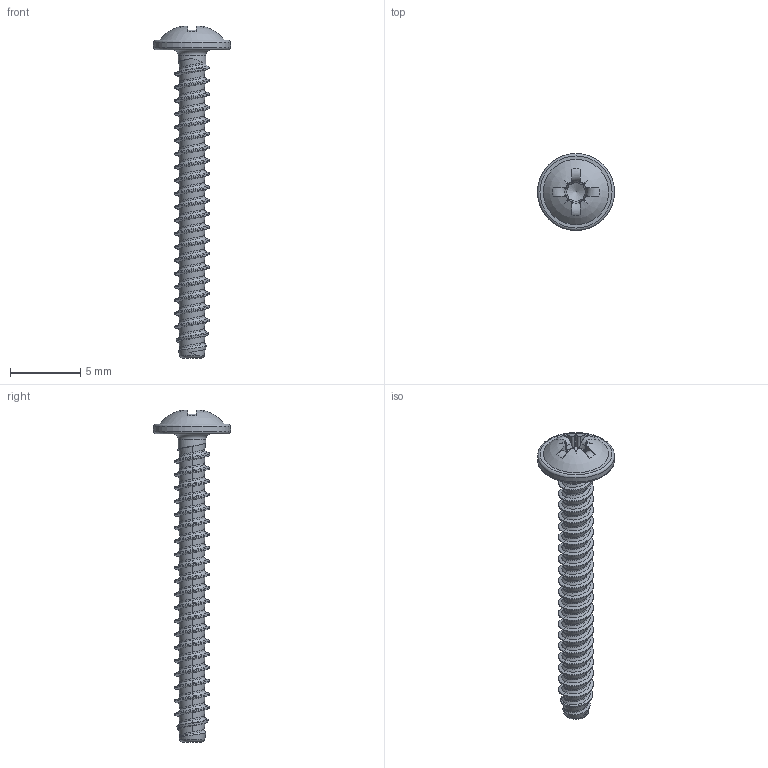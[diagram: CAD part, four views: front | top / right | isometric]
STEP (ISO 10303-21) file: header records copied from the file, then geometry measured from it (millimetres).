
FILE_DESCRIPTION(/* description */ (''),/* implementation_level */ '2;1');
FILE_NAME(/* name */ 'KN6031-STSplus-25x22-Z1.step',/* time_stamp */ '2017-10-09T16:38:55+02:00',/* author */ (''),/* organization */ (''),/* preprocessor_version */ 'ST-DEVELOPER v16',/* originating_system */ 'SIEMENS PLM Software NX 10.0',/* authorisation */ '');
FILE_SCHEMA (('AUTOMOTIVE_DESIGN { 1 0 10303 214 3 1 1 1 }'));
Length unit declared in the file: millimetre
Products named in the file (1): KN6031-STSplus-25x22-Z1
Bounding box: 5.5 x 5.5 x 23.7 mm (x, y, z)
Volume: 90.2 mm3; surface area: 263.7 mm2
Topology: 1 solids, 1 shells, 147 faces, 383 edges, 239 vertices
Faces by surface type: bspline 92, plane 27, cylinder 12, torus 8, cone 7, sphere 1
Full cylindrical faces by diameter (mm): 1.97 x1, 5.5 x1
Entity records: 10257 total; most frequent: CARTESIAN_POINT 7367, ORIENTED_EDGE 738, EDGE_CURVE 369, DIRECTION 324, VERTEX_POINT 234, B_SPLINE_CURVE_WITH_KNOTS 205, EDGE_LOOP 156, ADVANCED_FACE 147
